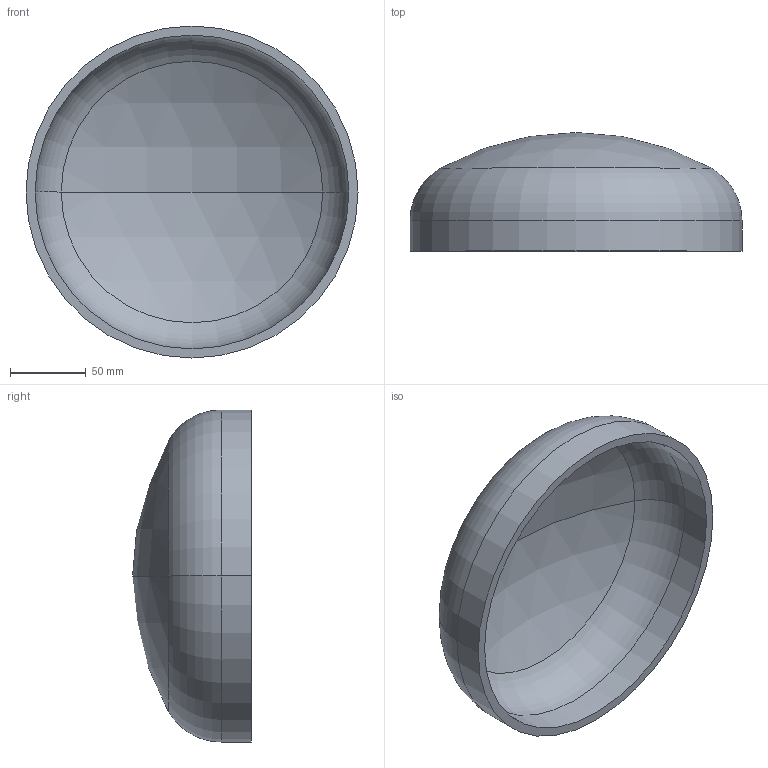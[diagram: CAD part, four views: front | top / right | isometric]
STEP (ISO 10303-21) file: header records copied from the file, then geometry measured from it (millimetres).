
FILE_DESCRIPTION (( 'STEP AP203' ), '1' );
FILE_NAME ('DIN 28013 Korbbogenform_-_Boden DIN 28013 - 219,1 x 20 - I - s=6.step', '2016-07-01T07:42:22', ( '' ), ( '' ), 'SwSTEP 2.0', 'SolidWorks 2013', '' );
FILE_SCHEMA (( 'CONFIG_CONTROL_DESIGN' ));
Length unit declared in the file: millimetre
Products named in the file (1): DIN 28013 Korbbogenform_-_Boden DIN 28013 - 219,1 x 20 - I - s=6
Bounding box: 219.1 x 78.35 x 219.1 mm (x, y, z)
Volume: 383111.5 mm3; surface area: 131796 mm2
Topology: 1 solids, 1 shells, 13 faces, 24 edges, 14 vertices
Faces by surface type: torus 4, cylinder 4, sphere 4, plane 1
Entity records: 407 total; most frequent: DIRECTION 72, CARTESIAN_POINT 52, ORIENTED_EDGE 48, AXIS2_PLACEMENT_3D 34, EDGE_CURVE 24, CIRCLE 20, EDGE_LOOP 14, VERTEX_POINT 14
